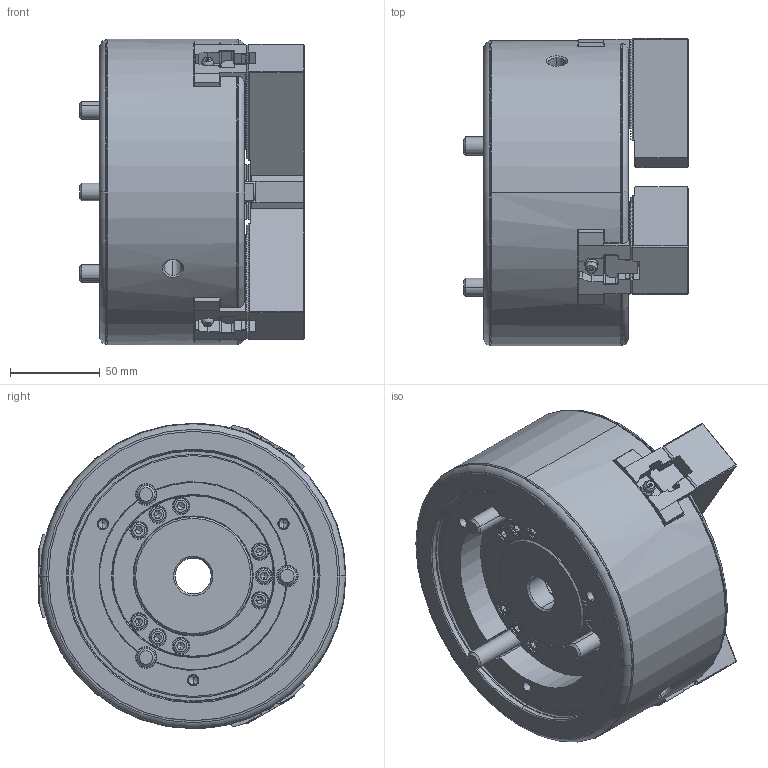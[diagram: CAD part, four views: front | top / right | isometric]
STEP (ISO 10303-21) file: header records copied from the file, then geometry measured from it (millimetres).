
FILE_DESCRIPTION (( 'STEP AP214' ), '1' );
FILE_NAME ('BR06_UC.STEP', '2023-02-07T04:35:58', ( '' ), ( '' ), 'SwSTEP 2.0', 'SolidWorks 2020', '' );
FILE_SCHEMA (( 'AUTOMOTIVE_DESIGN' ));
Length unit declared in the file: millimetre
Products named in the file (5): 61P302540-2 SB06B1 ソフトジョー_SB06B1-ﾃﾞﾌｫﾙﾄ(外観用); Part2^BR06-Nishi07 クミタテ; BR06-Nishi05 Plus-Tナット_61P447483-1 BB206 Tﾅｯﾄ-ﾃﾞﾌｫﾙﾄ; Bアナツキ M10×25; BR06_UC
Assembly tree (13 placements, depth 2):
  BR06_UC
    61P302540-2 SB06B1 ソフトジョー_SB06B1-ﾃﾞﾌｫﾙﾄ(外観用)  x3
    BR06-Nishi05 Plus-Tナット_61P447483-1 BB206 Tﾅｯﾄ-ﾃﾞﾌｫﾙﾄ  x3
    Bアナツキ M10×25  x6
    Part2^BR06-Nishi07 クミタテ
Bounding box: 125.2 x 171.3 x 170 mm (x, y, z)
Volume: 1683864.2 mm3; surface area: 214575.1 mm2
Topology: 13 solids, 40 shells, 3528 faces, 9462 edges, 6060 vertices
Faces by surface type: plane 2473, cylinder 451, cone 334, bspline 150, torus 108, sphere 12
Entity records: 90266 total; most frequent: CARTESIAN_POINT 22621, ORIENTED_EDGE 14522, DIRECTION 13205, EDGE_CURVE 7261, VECTOR 5239, LINE 5239, VERTEX_POINT 4682, AXIS2_PLACEMENT_3D 3983
